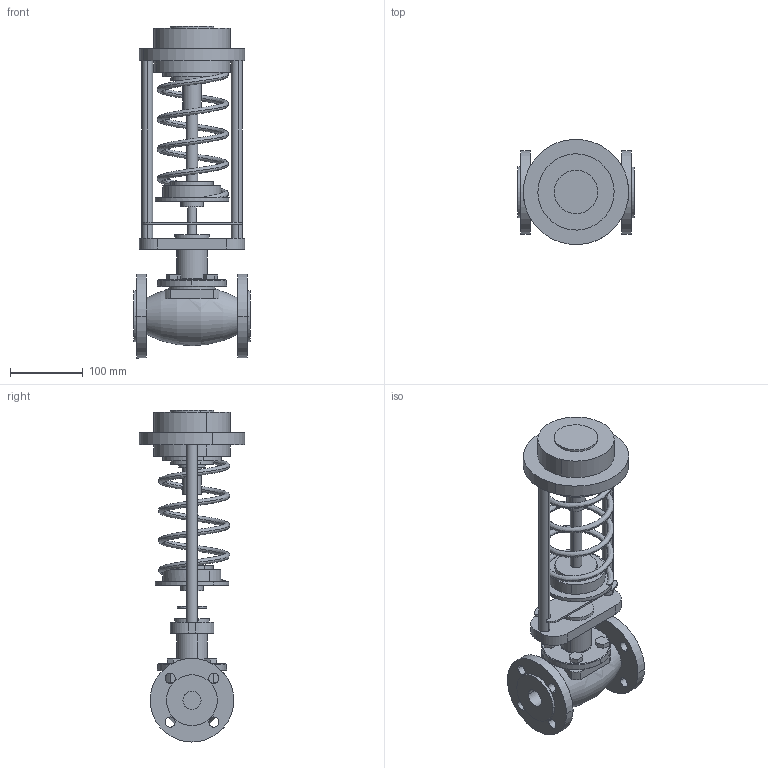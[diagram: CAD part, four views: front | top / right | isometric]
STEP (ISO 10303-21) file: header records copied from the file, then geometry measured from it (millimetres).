
FILE_DESCRIPTION (( 'STEP AP214' ), '1' );
FILE_NAME ('RDT-S, RDT-B DN-25.STEP', '2025-12-12T08:05:03', ( '' ), ( '' ), 'SwSTEP 2.0', 'SolidWorks 2023', '' );
FILE_SCHEMA (( 'AUTOMOTIVE_DESIGN' ));
Length unit declared in the file: millimetre
Products named in the file (4): RDT-S, RDT-B DN-25.stp; ___ 1_2.stp; RDT-S, RDT-B DN-25; RDT DN-25(______)_3.stp
Assembly tree (3 placements, depth 3):
  RDT-S, RDT-B DN-25
    RDT-S, RDT-B DN-25.stp
      ___ 1_2.stp
      RDT DN-25(______)_3.stp
Bounding box: 160.06 x 144.86 x 457 mm (x, y, z)
Volume: 2140411.7 mm3; surface area: 280306.1 mm2
Topology: 2 solids, 3 shells, 193 faces, 477 edges, 315 vertices
Faces by surface type: cylinder 94, plane 84, cone 10, bspline 3, torus 2
Entity records: 18847 total; most frequent: CARTESIAN_POINT 13927, DIRECTION 1064, ORIENTED_EDGE 954, EDGE_CURVE 477, AXIS2_PLACEMENT_3D 413, VERTEX_POINT 315, EDGE_LOOP 248, LINE 238
